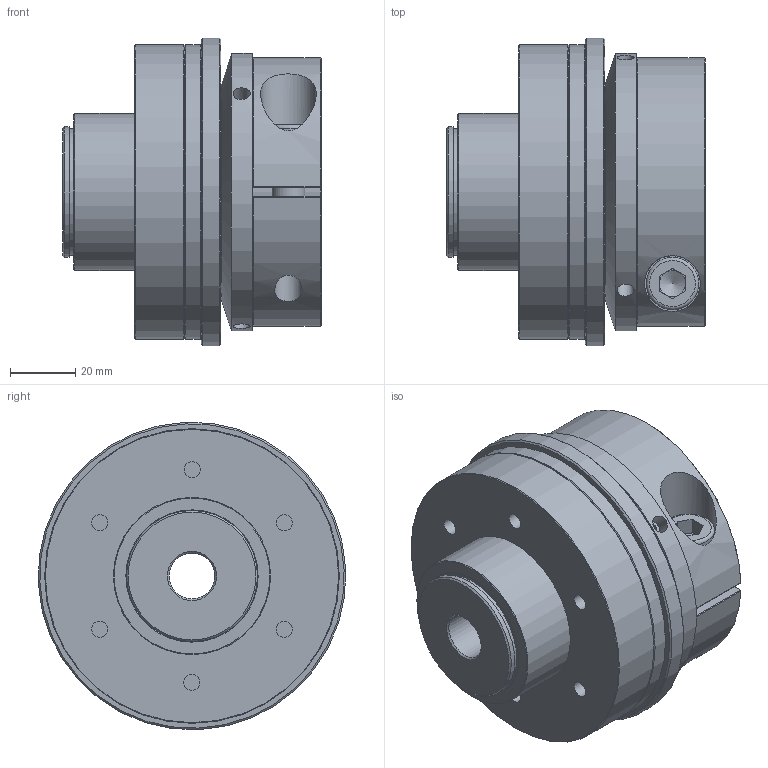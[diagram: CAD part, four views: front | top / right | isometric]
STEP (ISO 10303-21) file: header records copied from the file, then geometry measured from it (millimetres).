
FILE_DESCRIPTION( ( 'Unknown' ), '1' );
FILE_NAME( 'C:/Users/TWalzel/Documents/CAD-Daten/KBK-CK/80/KBK CK-80.stp', 'Unknown', ( 'Unknown' ), ( 'Unknown' ), 'PSStep 16.0.42', 'Unknown', ' ' );
FILE_SCHEMA( ( 'AUTOMOTIVE_DESIGN { 1 0 10303 214 1 1 1 1 }' ) );
Length unit declared in the file: millimetre
Products named in the file (10): Klemmnabe 80_0; Stellring 80_0; Druckring 80_0; Assem1; Flansch-Gleitlager CK-80; Socket Head Cap Screw_DIN_DIN 912 M10 x 30 --- 30N; Grundkörper CK-80_1
Assembly tree (9 placements, depth 3):
  Assem1
    Flansch-Gleitlager CK-80
    Socket Head Cap Screw_DIN_DIN 912 M10 x 30 --- 30N
    Grundkörper CK-80_1
    Stellring 80_0
      Stellring 80_0
    Druckring 80_0
      Druckring 80_0
    Klemmnabe 80_0
      Klemmnabe 80_0
Bounding box: 79.1 x 93.92 x 93.92 mm (x, y, z)
Volume: 338182.7 mm3; surface area: 89418.7 mm2
Topology: 6 solids, 6 shells, 137 faces, 298 edges, 192 vertices
Faces by surface type: plane 57, cylinder 46, cone 30, torus 4
Full cylindrical faces by diameter (mm): 3.242 x3, 4.917 x12, 5 x4, 5.2 x3, 8.376 x1, 10 x1, 10.5 x1, 14 x1, 16 x1, 17 x1, 38.5 x1, 40 x3, 42 x1, 48 x1, 62 x2, 70 x1, 85 x1, 87 x1, 90 x2, 94 x1
Entity records: 4988 total; most frequent: CARTESIAN_POINT 1025, DIRECTION 624, ORIENTED_EDGE 400, AXIS2_PLACEMENT_3D 282, EDGE_LOOP 246, EDGE_CURVE 200, FACE_OUTER_BOUND 183, VERTEX_POINT 167
